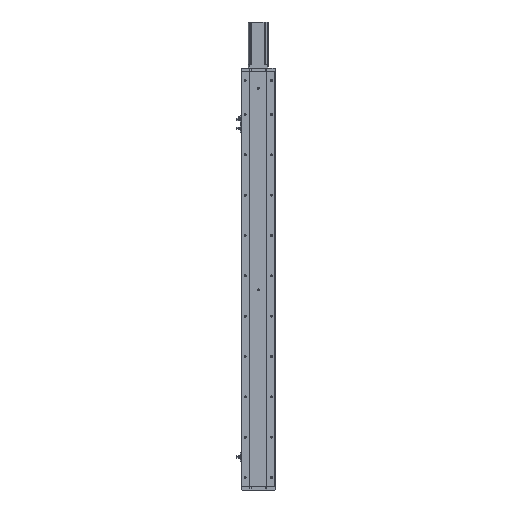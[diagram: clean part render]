
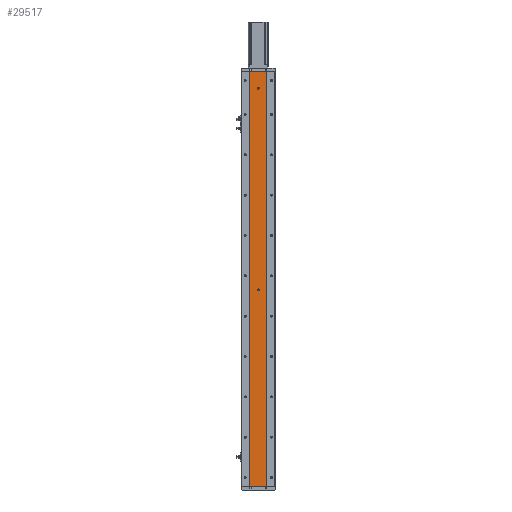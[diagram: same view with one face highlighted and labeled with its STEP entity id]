
A CAD part, left-side view. The second image highlights one B-rep face of the part: STEP entity #29517.
In plain terms, the highlighted planar face has unit normal (-1, 0, 0).
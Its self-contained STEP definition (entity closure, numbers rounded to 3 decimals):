
#647 = CARTESIAN_POINT ( 'NONE',  ( -18.926, 24.785, 0. ) ) ;
#719 = ORIENTED_EDGE ( 'NONE', *, *, #29363, .F. ) ;
#1506 = CIRCLE ( 'NONE', #11479, 3. ) ;
#2887 = VERTEX_POINT ( 'NONE', #5692 ) ;
#3109 = DIRECTION ( 'NONE',  ( -1., 0., 0. ) ) ;
#4219 = CARTESIAN_POINT ( 'NONE',  ( -18.926, 0., 1188. ) ) ;
#4854 = CARTESIAN_POINT ( 'NONE',  ( -18.926, 0., 582. ) ) ;
#5351 = VECTOR ( 'NONE', #34101, 1000. ) ;
#5611 = EDGE_CURVE ( 'NONE', #12408, #19511, #18619, .T. ) ;
#5692 = CARTESIAN_POINT ( 'NONE',  ( -18.926, -24.785, 0. ) ) ;
#6382 = LINE ( 'NONE', #11217, #42583 ) ;
#6467 = ORIENTED_EDGE ( 'NONE', *, *, #12440, .F. ) ;
#7705 = VECTOR ( 'NONE', #8814, 1000. ) ;
#8814 = DIRECTION ( 'NONE',  ( 0., 0., -1. ) ) ;
#11152 = VECTOR ( 'NONE', #25296, 1000. ) ;
#11217 = CARTESIAN_POINT ( 'NONE',  ( -18.926, 24.785, 0. ) ) ;
#11479 = AXIS2_PLACEMENT_3D ( 'NONE', #17577, #42055, #21100 ) ;
#11636 = EDGE_LOOP ( 'NONE', ( #33087, #18964 ) ) ;
#12276 = LINE ( 'NONE', #43030, #11152 ) ;
#12408 = VERTEX_POINT ( 'NONE', #4219 ) ;
#12440 = EDGE_CURVE ( 'NONE', #24395, #26670, #12276, .T. ) ;
#13046 = DIRECTION ( 'NONE',  ( -1., 0., 0. ) ) ;
#14246 = CARTESIAN_POINT ( 'NONE',  ( -18.926, 24.785, 1235. ) ) ;
#14419 = DIRECTION ( 'NONE',  ( -1., 0., 0. ) ) ;
#14465 = CARTESIAN_POINT ( 'NONE',  ( -18.926, 0., 588. ) ) ;
#15804 = EDGE_CURVE ( 'NONE', #24395, #28595, #17077, .T. ) ;
#16382 = AXIS2_PLACEMENT_3D ( 'NONE', #24145, #3109, #27682 ) ;
#17077 = LINE ( 'NONE', #19291, #7705 ) ;
#17577 = CARTESIAN_POINT ( 'NONE',  ( -18.926, 0., 585. ) ) ;
#17797 = DIRECTION ( 'NONE',  ( 0., 0., -1. ) ) ;
#18306 = AXIS2_PLACEMENT_3D ( 'NONE', #35429, #14419, #38940 ) ;
#18619 = CIRCLE ( 'NONE', #16382, 3. ) ;
#18964 = ORIENTED_EDGE ( 'NONE', *, *, #27718, .F. ) ;
#19291 = CARTESIAN_POINT ( 'NONE',  ( -18.926, 24.785, 1235. ) ) ;
#19511 = VERTEX_POINT ( 'NONE', #29962 ) ;
#21055 = VERTEX_POINT ( 'NONE', #4854 ) ;
#21100 = DIRECTION ( 'NONE',  ( 0., 0., 1. ) ) ;
#24145 = CARTESIAN_POINT ( 'NONE',  ( -18.926, 0., 1185. ) ) ;
#24395 = VERTEX_POINT ( 'NONE', #29233 ) ;
#25161 = LINE ( 'NONE', #44667, #5351 ) ;
#25296 = DIRECTION ( 'NONE',  ( 0., -1., 0. ) ) ;
#25513 = DIRECTION ( 'NONE',  ( 0., -1., 0. ) ) ;
#26281 = FACE_BOUND ( 'NONE', #11636, .T. ) ;
#26670 = VERTEX_POINT ( 'NONE', #35661 ) ;
#27682 = DIRECTION ( 'NONE',  ( 0., 0., 1. ) ) ;
#27718 = EDGE_CURVE ( 'NONE', #19511, #12408, #40823, .T. ) ;
#28349 = AXIS2_PLACEMENT_3D ( 'NONE', #14246, #38790, #17797 ) ;
#28595 = VERTEX_POINT ( 'NONE', #647 ) ;
#29233 = CARTESIAN_POINT ( 'NONE',  ( -18.926, 24.785, 1235. ) ) ;
#29363 = EDGE_CURVE ( 'NONE', #21055, #38076, #33937, .T. ) ;
#29517 = ADVANCED_FACE ( 'NONE', ( #36688, #26281, #44873 ), #35105, .F. ) ;
#29962 = CARTESIAN_POINT ( 'NONE',  ( -18.926, 0., 1182. ) ) ;
#31676 = ORIENTED_EDGE ( 'NONE', *, *, #44082, .T. ) ;
#33087 = ORIENTED_EDGE ( 'NONE', *, *, #5611, .F. ) ;
#33152 = EDGE_CURVE ( 'NONE', #38076, #21055, #1506, .T. ) ;
#33759 = EDGE_LOOP ( 'NONE', ( #31676, #35632, #6467, #41227 ) ) ;
#33910 = AXIS2_PLACEMENT_3D ( 'NONE', #34037, #13046, #37588 ) ;
#33937 = CIRCLE ( 'NONE', #33910, 3. ) ;
#34037 = CARTESIAN_POINT ( 'NONE',  ( -18.926, 0., 585. ) ) ;
#34101 = DIRECTION ( 'NONE',  ( 0., 0., -1. ) ) ;
#35105 = PLANE ( 'NONE',  #28349 ) ;
#35429 = CARTESIAN_POINT ( 'NONE',  ( -18.926, 0., 1185. ) ) ;
#35632 = ORIENTED_EDGE ( 'NONE', *, *, #37896, .F. ) ;
#35661 = CARTESIAN_POINT ( 'NONE',  ( -18.926, -24.785, 1235. ) ) ;
#36688 = FACE_BOUND ( 'NONE', #44215, .T. ) ;
#37552 = ORIENTED_EDGE ( 'NONE', *, *, #33152, .F. ) ;
#37588 = DIRECTION ( 'NONE',  ( 0., 0., 1. ) ) ;
#37896 = EDGE_CURVE ( 'NONE', #26670, #2887, #25161, .T. ) ;
#38076 = VERTEX_POINT ( 'NONE', #14465 ) ;
#38790 = DIRECTION ( 'NONE',  ( 1., 0., 0. ) ) ;
#38940 = DIRECTION ( 'NONE',  ( 0., 0., 1. ) ) ;
#40823 = CIRCLE ( 'NONE', #18306, 3. ) ;
#41227 = ORIENTED_EDGE ( 'NONE', *, *, #15804, .T. ) ;
#42055 = DIRECTION ( 'NONE',  ( -1., 0., 0. ) ) ;
#42583 = VECTOR ( 'NONE', #25513, 1000. ) ;
#43030 = CARTESIAN_POINT ( 'NONE',  ( -18.926, 24.785, 1235. ) ) ;
#44082 = EDGE_CURVE ( 'NONE', #28595, #2887, #6382, .T. ) ;
#44215 = EDGE_LOOP ( 'NONE', ( #37552, #719 ) ) ;
#44667 = CARTESIAN_POINT ( 'NONE',  ( -18.926, -24.785, 1235. ) ) ;
#44873 = FACE_OUTER_BOUND ( 'NONE', #33759, .T. ) ;
